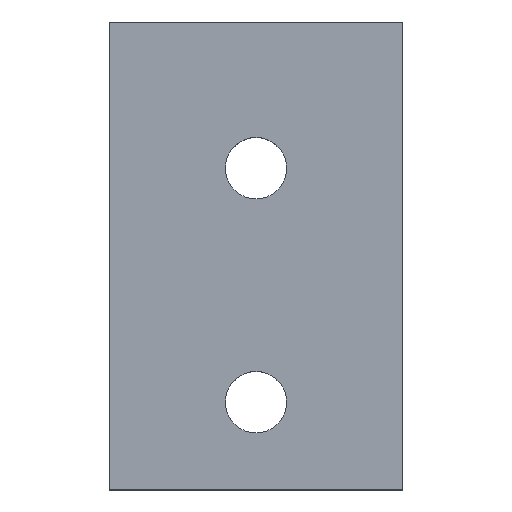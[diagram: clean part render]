
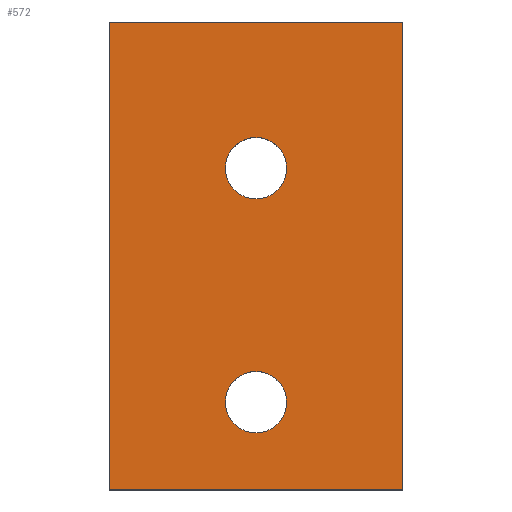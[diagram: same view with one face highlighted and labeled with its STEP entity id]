
A CAD part, top view. The second image highlights one B-rep face of the part: STEP entity #572.
In plain terms, the highlighted planar face has unit normal (0, 0, 1).
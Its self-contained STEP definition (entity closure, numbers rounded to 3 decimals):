
#269=CIRCLE('',#552,5.25);
#270=CIRCLE('',#553,5.25);
#295=ORIENTED_EDGE('',*,*,#393,.F.);
#296=ORIENTED_EDGE('',*,*,#392,.T.);
#297=ORIENTED_EDGE('',*,*,#394,.T.);
#298=ORIENTED_EDGE('',*,*,#374,.F.);
#299=ORIENTED_EDGE('',*,*,#395,.T.);
#300=ORIENTED_EDGE('',*,*,#396,.T.);
#320=VECTOR('',#440,1.);
#334=VECTOR('',#470,1.);
#335=VECTOR('',#473,1.);
#336=VECTOR('',#474,1.);
#338=LINE('',#494,#320);
#352=LINE('',#529,#334);
#353=LINE('',#531,#335);
#354=LINE('',#532,#336);
#355=VERTEX_POINT('',#490);
#357=VERTEX_POINT('',#493);
#369=VERTEX_POINT('',#525);
#370=VERTEX_POINT('',#527);
#371=VERTEX_POINT('',#533);
#372=VERTEX_POINT('',#535);
#374=EDGE_CURVE('',#355,#357,#338,.T.);
#392=EDGE_CURVE('',#369,#370,#352,.T.);
#393=EDGE_CURVE('',#369,#355,#353,.T.);
#394=EDGE_CURVE('',#370,#357,#354,.T.);
#395=EDGE_CURVE('',#371,#371,#269,.T.);
#396=EDGE_CURVE('',#372,#372,#270,.T.);
#406=EDGE_LOOP('',(#295,#296,#297,#298));
#407=EDGE_LOOP('',(#299));
#408=EDGE_LOOP('',(#300));
#426=FACE_BOUND('',#406,.T.);
#427=FACE_BOUND('',#407,.T.);
#428=FACE_BOUND('',#408,.T.);
#440=DIRECTION('',(50.,0.,0.));
#470=DIRECTION('',(50.,0.,0.));
#471=DIRECTION('',(0.,0.,1.));
#472=DIRECTION('',(0.,-1.,0.));
#473=DIRECTION('',(0.,80.,0.));
#474=DIRECTION('',(0.,80.,0.));
#475=DIRECTION('',(0.,0.,-1.));
#476=DIRECTION('',(0.,-5.25,0.));
#477=DIRECTION('',(0.,0.,-1.));
#478=DIRECTION('',(0.,-5.25,0.));
#490=CARTESIAN_POINT('',(-50.,80.,0.));
#493=CARTESIAN_POINT('',(0.,80.,0.));
#494=CARTESIAN_POINT('',(-50.,80.,0.));
#525=CARTESIAN_POINT('',(-50.,0.,0.));
#527=CARTESIAN_POINT('',(0.,0.,0.));
#529=CARTESIAN_POINT('',(-50.,0.,0.));
#530=CARTESIAN_POINT('',(-50.,0.,0.));
#531=CARTESIAN_POINT('',(-50.,0.,0.));
#532=CARTESIAN_POINT('',(0.,0.,0.));
#533=CARTESIAN_POINT('',(-25.,49.75,0.));
#534=CARTESIAN_POINT('',(-25.,55.,0.));
#535=CARTESIAN_POINT('',(-25.,9.75,0.));
#536=CARTESIAN_POINT('',(-25.,15.,0.));
#551=AXIS2_PLACEMENT_3D('',#530,#471,#472);
#552=AXIS2_PLACEMENT_3D('',#534,#475,#476);
#553=AXIS2_PLACEMENT_3D('',#536,#477,#478);
#564=PLANE('',#551);
#572=ADVANCED_FACE('',(#426,#427,#428),#564,.T.);
